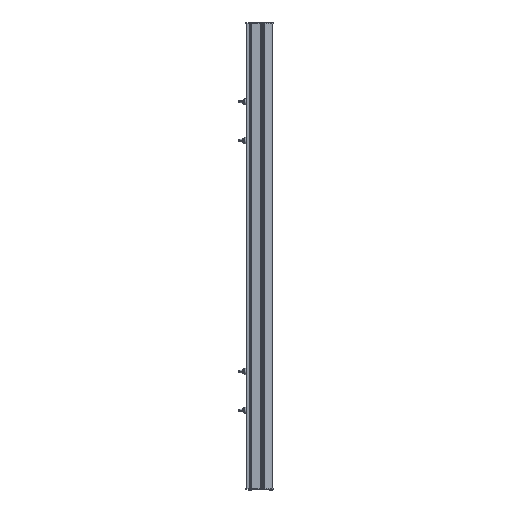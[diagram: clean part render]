
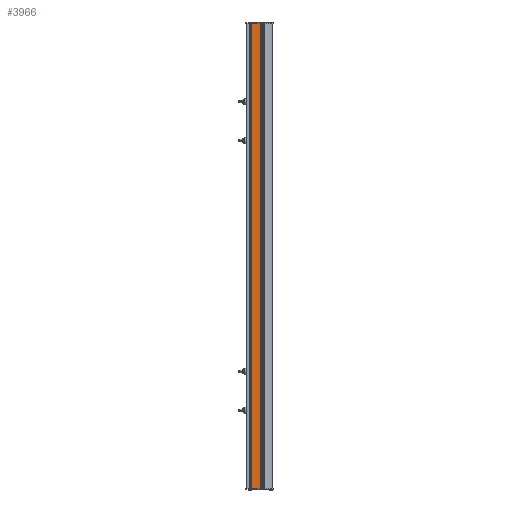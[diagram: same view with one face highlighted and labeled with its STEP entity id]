
A CAD part, front view. The second image highlights one B-rep face of the part: STEP entity #3966.
In plain terms, the highlighted planar face has unit normal (0, -1, 0).
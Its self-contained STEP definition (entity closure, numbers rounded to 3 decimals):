
#3914=CARTESIAN_POINT('Vertex',(60.,-130.,1200.)) ;
#3917=CARTESIAN_POINT('Line Origine',(60.,-130.,0.)) ;
#3921=CARTESIAN_POINT('Vertex',(60.,-130.,-1200.)) ;
#3936=CARTESIAN_POINT('Axis2P3D Location',(0.,-130.,0.)) ;
#3941=CARTESIAN_POINT('Line Origine',(11.5,-130.,0.)) ;
#3945=CARTESIAN_POINT('Vertex',(11.5,-130.,-1200.)) ;
#3947=CARTESIAN_POINT('Vertex',(11.5,-130.,1200.)) ;
#3950=CARTESIAN_POINT('Line Origine',(35.75,-130.,-1200.)) ;
#3955=CARTESIAN_POINT('Line Origine',(35.75,-130.,1200.)) ;
#3918=DIRECTION('Vector Direction',(0.,0.,1.)) ;
#3937=DIRECTION('Axis2P3D Direction',(0.,-1.,0.)) ;
#3938=DIRECTION('Axis2P3D XDirection',(1.,0.,0.)) ;
#3942=DIRECTION('Vector Direction',(0.,0.,1.)) ;
#3951=DIRECTION('Vector Direction',(-1.,0.,0.)) ;
#3956=DIRECTION('Vector Direction',(1.,0.,0.)) ;
#3939=AXIS2_PLACEMENT_3D('Plane Axis2P3D',#3936,#3937,#3938) ;
#3919=VECTOR('Line Direction',#3918,1.) ;
#3943=VECTOR('Line Direction',#3942,1.) ;
#3952=VECTOR('Line Direction',#3951,1.) ;
#3957=VECTOR('Line Direction',#3956,1.) ;
#3923=EDGE_CURVE('',#3915,#3922,#3920,.F.) ;
#3949=EDGE_CURVE('',#3946,#3948,#3944,.T.) ;
#3954=EDGE_CURVE('',#3922,#3946,#3953,.T.) ;
#3959=EDGE_CURVE('',#3948,#3915,#3958,.T.) ;
#3940=PLANE('',#3939) ;
#3961=ORIENTED_EDGE('',*,*,#3949,.F.) ;
#3962=ORIENTED_EDGE('',*,*,#3954,.F.) ;
#3963=ORIENTED_EDGE('',*,*,#3923,.F.) ;
#3964=ORIENTED_EDGE('',*,*,#3959,.F.) ;
#3966=ADVANCED_FACE('PartBody',(#3965),#3940,.T.) ;
#3960=EDGE_LOOP('',(#3961,#3962,#3963,#3964)) ;
#3965=FACE_OUTER_BOUND('',#3960,.T.) ;
#3920=LINE('Line',#3917,#3919) ;
#3944=LINE('Line',#3941,#3943) ;
#3953=LINE('Line',#3950,#3952) ;
#3958=LINE('Line',#3955,#3957) ;
#3915=VERTEX_POINT('',#3914) ;
#3922=VERTEX_POINT('',#3921) ;
#3946=VERTEX_POINT('',#3945) ;
#3948=VERTEX_POINT('',#3947) ;
